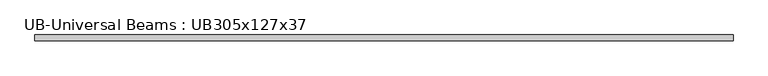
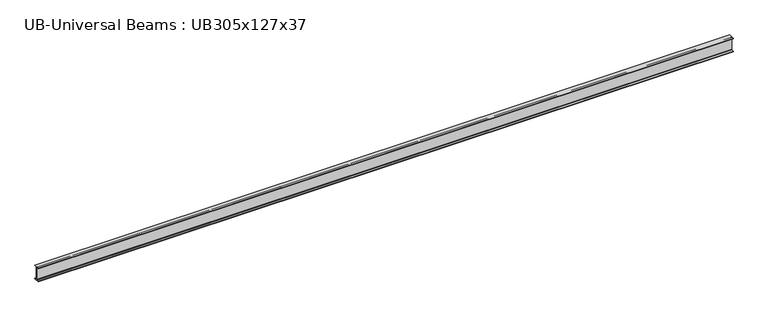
"""IFC4 building model written with IfcOpenShell, lengths in millimetres: beam geometry, UB-Universal Beams : UB305x127x37."""

from ifc_helpers import new_model, si_unit, point, frame, frame_2d, origin, place, context, project, spatial, polyline, circle_curve, trimmed, segment, composite_curve, outline, extrude, source, transform, mapped, element, save


def ub_universal_beams_ub305x127x37_54dd217e(model_context):
    return source(origin(), model_context, "Body", "SweptSolid", [
        extrude(outline(composite_curve([segment(polyline([(61.7, -141.5), (61.7, -152.2), (-61.7, -152.2), (-61.7, -141.5), (-12.45, -141.5)]), True, "CONTINUOUS"), segment(trimmed(circle_curve(frame_2d((-12.45, -132.6)), 8.9), [point((-12.45, -141.5))], [point((-3.55, -132.6))], True, "CARTESIAN"), True, "CONTINUOUS"), segment(polyline([(-3.55, -132.6), (-3.55, 132.6)]), True, "CONTINUOUS"), segment(trimmed(circle_curve(frame_2d((-12.45, 132.6)), 8.9), [point((-3.55, 132.6))], [point((-12.45, 141.5))], True, "CARTESIAN"), True, "CONTINUOUS"), segment(polyline([(-12.45, 141.5), (-61.7, 141.5), (-61.7, 152.2), (61.7, 152.2), (61.7, 141.5), (12.45, 141.5)]), True, "CONTINUOUS"), segment(trimmed(circle_curve(frame_2d((12.45, 132.6)), 8.9), [point((12.45, 141.5))], [point((3.55, 132.6))], True, "CARTESIAN"), True, "CONTINUOUS"), segment(polyline([(3.55, 132.6), (3.55, -132.6)]), True, "CONTINUOUS"), segment(trimmed(circle_curve(frame_2d((12.45, -132.6)), 8.9), [point((3.55, -132.6))], [point((12.45, -141.5))], True, "CARTESIAN"), True, "CONTINUOUS"), segment(polyline([(12.45, -141.5), (61.7, -141.5)]), True, "CONTINUOUS")], self_intersect=False)), frame((-7410.4, 0.0, 0.0), z_axis=(1.0, 0.0, 0.0), x_axis=(0.0, 1.0, 0.0)), (0.0, 0.0, 1.0), 14767.0),
    ])


if __name__ == "__main__":
    model = new_model("IFC4")
    model_context = context("Model", 3, world=origin())
    ifc_project = project(units=[si_unit("LENGTHUNIT", "METRE", prefix="MILLI")], contexts=[model_context])
    site = spatial("IfcSite", under=ifc_project)
    building = spatial("IfcBuilding", under=site)
    placement = place(None, origin())
    ub_universal_beams_ub305x127x37_shape = ub_universal_beams_ub305x127x37_54dd217e(model_context)
    element("IfcBeam", 1, ObjectType="UB-Universal Beams : UB305x127x37", at=placement, inside=building, context=model_context, shape_type="MappedRepresentation", body=[
        mapped(ub_universal_beams_ub305x127x37_shape, transform((0.0, 0.0, 0.0), x_axis=(1.0, 0.0, 0.0), y_axis=(0.0, 1.0, 0.0), z_axis=(0.0, 0.0, 1.0))),
    ])
    save(model, "model.ifc")
